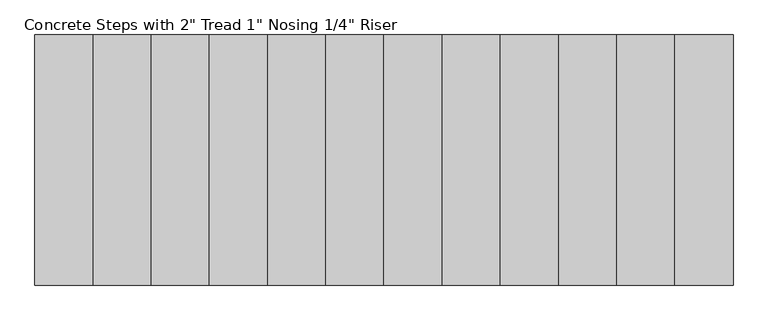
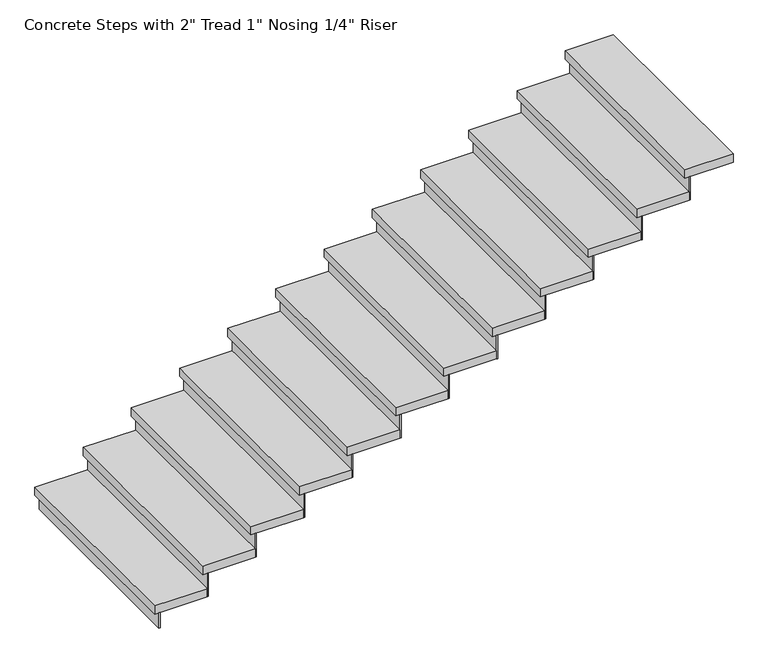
"""IFC4 building model written with IfcOpenShell, lengths in millimetres: stair flight geometry."""

from ifc_helpers import new_model, si_unit, frame, origin, origin_with_axes, place, context, project, spatial, polyline, outline, extrude, source, transform, mapped, element, save


def stair_flight_37e924e8(model_context):
    return source(origin(), model_context, "Body", "SweptSolid", [
        extrude(outline(polyline([(-18973.5313244, -31422.1775116), (-18979.8813244, -31422.1775116), (-18979.8813244, -30221.1689116), (-18973.5313244, -30221.1689116), (-18973.5313244, -31422.1775116)])), origin_with_axes(), (0.0, 0.0, 1.0), 94.3428571),
        extrude(outline(polyline([(-18700.4813244, -30221.1689116), (-18700.4813244, -31422.1775116), (-19005.2813244, -31422.1775116), (-19005.2813244, -30221.1689116), (-18700.4813244, -30221.1689116)])), frame((0.0, 0.0, 94.3428571), z_axis=(0.0, 0.0, 1.0), x_axis=(1.0, 0.0, 0.0)), (0.0, 0.0, 1.0), 50.8),
        extrude(outline(polyline([(-18694.1313244, -31422.1775116), (-18700.4813244, -31422.1775116), (-18700.4813244, -30221.1689116), (-18694.1313244, -30221.1689116), (-18694.1313244, -31422.1775116)])), frame((0.0, 0.0, 94.3428571), z_axis=(0.0, 0.0, 1.0), x_axis=(1.0, 0.0, 0.0)), (0.0, 0.0, 1.0), 145.1428571),
        extrude(outline(polyline([(-18421.0813244, -30221.1689116), (-18421.0813244, -31422.1775116), (-18725.8813244, -31422.1775116), (-18725.8813244, -30221.1689116), (-18421.0813244, -30221.1689116)])), frame((0.0, 0.0, 239.4857143), z_axis=(0.0, 0.0, 1.0), x_axis=(1.0, 0.0, 0.0)), (0.0, 0.0, 1.0), 50.8),
        extrude(outline(polyline([(-18414.7313244, -31422.1775116), (-18421.0813244, -31422.1775116), (-18421.0813244, -30221.1689116), (-18414.7313244, -30221.1689116), (-18414.7313244, -31422.1775116)])), frame((0.0, 0.0, 239.4857143), z_axis=(0.0, 0.0, 1.0), x_axis=(1.0, 0.0, 0.0)), (0.0, 0.0, 1.0), 145.1428571),
        extrude(outline(polyline([(-18141.6813244, -30221.1689116), (-18141.6813244, -31422.1775116), (-18446.4813244, -31422.1775116), (-18446.4813244, -30221.1689116), (-18141.6813244, -30221.1689116)])), frame((0.0, 0.0, 384.6285714), z_axis=(0.0, 0.0, 1.0), x_axis=(1.0, 0.0, 0.0)), (0.0, 0.0, 1.0), 50.8),
        extrude(outline(polyline([(-18135.3313244, -31422.1775116), (-18141.6813244, -31422.1775116), (-18141.6813244, -30221.1689116), (-18135.3313244, -30221.1689116), (-18135.3313244, -31422.1775116)])), frame((0.0, 0.0, 384.6285714), z_axis=(0.0, 0.0, 1.0), x_axis=(1.0, 0.0, 0.0)), (0.0, 0.0, 1.0), 145.1428571),
        extrude(outline(polyline([(-17862.2813244, -30221.1689116), (-17862.2813244, -31422.1775116), (-18167.0813244, -31422.1775116), (-18167.0813244, -30221.1689116), (-17862.2813244, -30221.1689116)])), frame((0.0, 0.0, 529.7714286), z_axis=(0.0, 0.0, 1.0), x_axis=(1.0, 0.0, 0.0)), (0.0, 0.0, 1.0), 50.8),
        extrude(outline(polyline([(-17855.9313244, -31422.1775116), (-17862.2813244, -31422.1775116), (-17862.2813244, -30221.1689116), (-17855.9313244, -30221.1689116), (-17855.9313244, -31422.1775116)])), frame((0.0, 0.0, 529.7714286), z_axis=(0.0, 0.0, 1.0), x_axis=(1.0, 0.0, 0.0)), (0.0, 0.0, 1.0), 145.1428571),
        extrude(outline(polyline([(-17582.8813244, -30221.1689116), (-17582.8813244, -31422.1775116), (-17887.6813244, -31422.1775116), (-17887.6813244, -30221.1689116), (-17582.8813244, -30221.1689116)])), frame((0.0, 0.0, 674.9142857), z_axis=(0.0, 0.0, 1.0), x_axis=(1.0, 0.0, 0.0)), (0.0, 0.0, 1.0), 50.8),
        extrude(outline(polyline([(-17576.5313244, -31422.1775116), (-17582.8813244, -31422.1775116), (-17582.8813244, -30221.1689116), (-17576.5313244, -30221.1689116), (-17576.5313244, -31422.1775116)])), frame((0.0, 0.0, 674.9142857), z_axis=(0.0, 0.0, 1.0), x_axis=(1.0, 0.0, 0.0)), (0.0, 0.0, 1.0), 145.1428571),
        extrude(outline(polyline([(-17303.4813244, -30221.1689116), (-17303.4813244, -31422.1775116), (-17608.2813244, -31422.1775116), (-17608.2813244, -30221.1689116), (-17303.4813244, -30221.1689116)])), frame((0.0, 0.0, 820.0571429), z_axis=(0.0, 0.0, 1.0), x_axis=(1.0, 0.0, 0.0)), (0.0, 0.0, 1.0), 50.8),
        extrude(outline(polyline([(-17297.1313244, -31422.1775116), (-17303.4813244, -31422.1775116), (-17303.4813244, -30221.1689116), (-17297.1313244, -30221.1689116), (-17297.1313244, -31422.1775116)])), frame((0.0, 0.0, 820.0571429), z_axis=(0.0, 0.0, 1.0), x_axis=(1.0, 0.0, 0.0)), (0.0, 0.0, 1.0), 145.1428571),
        extrude(outline(polyline([(-17024.0813244, -30221.1689116), (-17024.0813244, -31422.1775116), (-17328.8813244, -31422.1775116), (-17328.8813244, -30221.1689116), (-17024.0813244, -30221.1689116)])), frame((0.0, 0.0, 965.2), z_axis=(0.0, 0.0, 1.0), x_axis=(1.0, 0.0, 0.0)), (0.0, 0.0, 1.0), 50.8),
        extrude(outline(polyline([(-17017.7313244, -31422.1775116), (-17024.0813244, -31422.1775116), (-17024.0813244, -30221.1689116), (-17017.7313244, -30221.1689116), (-17017.7313244, -31422.1775116)])), frame((0.0, 0.0, 965.2), z_axis=(0.0, 0.0, 1.0), x_axis=(1.0, 0.0, 0.0)), (0.0, 0.0, 1.0), 145.1428571),
        extrude(outline(polyline([(-16744.6813244, -30221.1689116), (-16744.6813244, -31422.1775116), (-17049.4813244, -31422.1775116), (-17049.4813244, -30221.1689116), (-16744.6813244, -30221.1689116)])), frame((0.0, 0.0, 1110.3428571), z_axis=(0.0, 0.0, 1.0), x_axis=(1.0, 0.0, 0.0)), (0.0, 0.0, 1.0), 50.8),
        extrude(outline(polyline([(-16738.3313244, -31422.1775116), (-16744.6813244, -31422.1775116), (-16744.6813244, -30221.1689116), (-16738.3313244, -30221.1689116), (-16738.3313244, -31422.1775116)])), frame((0.0, 0.0, 1110.3428571), z_axis=(0.0, 0.0, 1.0), x_axis=(1.0, 0.0, 0.0)), (0.0, 0.0, 1.0), 145.1428571),
        extrude(outline(polyline([(-16465.2813244, -30221.1689116), (-16465.2813244, -31422.1775116), (-16770.0813244, -31422.1775116), (-16770.0813244, -30221.1689116), (-16465.2813244, -30221.1689116)])), frame((0.0, 0.0, 1255.4857143), z_axis=(0.0, 0.0, 1.0), x_axis=(1.0, 0.0, 0.0)), (0.0, 0.0, 1.0), 50.8),
        extrude(outline(polyline([(-16458.9313244, -31422.1775116), (-16465.2813244, -31422.1775116), (-16465.2813244, -30221.1689116), (-16458.9313244, -30221.1689116), (-16458.9313244, -31422.1775116)])), frame((0.0, 0.0, 1255.4857143), z_axis=(0.0, 0.0, 1.0), x_axis=(1.0, 0.0, 0.0)), (0.0, 0.0, 1.0), 145.1428571),
        extrude(outline(polyline([(-16185.8813244, -30221.1689116), (-16185.8813244, -31422.1775116), (-16490.6813244, -31422.1775116), (-16490.6813244, -30221.1689116), (-16185.8813244, -30221.1689116)])), frame((0.0, 0.0, 1400.6285714), z_axis=(0.0, 0.0, 1.0), x_axis=(1.0, 0.0, 0.0)), (0.0, 0.0, 1.0), 50.8),
        extrude(outline(polyline([(-16179.5313244, -31422.1775116), (-16185.8813244, -31422.1775116), (-16185.8813244, -30221.1689116), (-16179.5313244, -30221.1689116), (-16179.5313244, -31422.1775116)])), frame((0.0, 0.0, 1400.6285714), z_axis=(0.0, 0.0, 1.0), x_axis=(1.0, 0.0, 0.0)), (0.0, 0.0, 1.0), 145.1428571),
        extrude(outline(polyline([(-15906.4813244, -30221.1689116), (-15906.4813244, -31422.1775116), (-16211.2813244, -31422.1775116), (-16211.2813244, -30221.1689116), (-15906.4813244, -30221.1689116)])), frame((0.0, 0.0, 1545.7714286), z_axis=(0.0, 0.0, 1.0), x_axis=(1.0, 0.0, 0.0)), (0.0, 0.0, 1.0), 50.8),
        extrude(outline(polyline([(-15900.1313244, -31422.1775116), (-15906.4813244, -31422.1775116), (-15906.4813244, -30221.1689116), (-15900.1313244, -30221.1689116), (-15900.1313244, -31422.1775116)])), frame((0.0, 0.0, 1545.7714286), z_axis=(0.0, 0.0, 1.0), x_axis=(1.0, 0.0, 0.0)), (0.0, 0.0, 1.0), 145.1428571),
        extrude(outline(polyline([(-15652.4813244, -30221.1689116), (-15652.4813244, -31422.1775116), (-15931.8813244, -31422.1775116), (-15931.8813244, -30221.1689116), (-15652.4813244, -30221.1689116)])), frame((0.0, 0.0, 1690.9142857), z_axis=(0.0, 0.0, 1.0), x_axis=(1.0, 0.0, 0.0)), (0.0, 0.0, 1.0), 50.8),
    ])


if __name__ == "__main__":
    model = new_model("IFC4")
    model_context = context("Model", 3, world=origin())
    ifc_project = project(units=[si_unit("LENGTHUNIT", "METRE", prefix="MILLI")], contexts=[model_context])
    site = spatial("IfcSite", under=ifc_project)
    building = spatial("IfcBuilding", under=site)
    placement = place(None, origin())
    stair_flight_shape = stair_flight_37e924e8(model_context)
    element("IfcStairFlight", 1, ObjectType="Concrete Steps with 2\" Tread 1\" Nosing 1/4\" Riser", at=placement, inside=building, context=model_context, shape_type="MappedRepresentation", body=[
        mapped(stair_flight_shape, transform((0.0, 0.0, 0.0), x_axis=(1.0, 0.0, 0.0), y_axis=(0.0, 1.0, 0.0), z_axis=(0.0, 0.0, 1.0))),
    ])
    save(model, "model.ifc")
